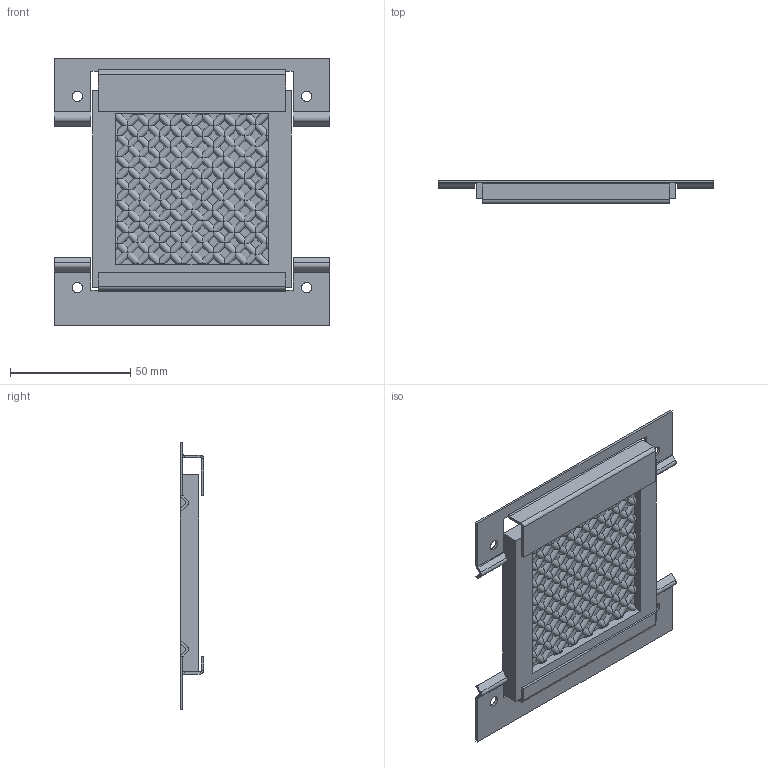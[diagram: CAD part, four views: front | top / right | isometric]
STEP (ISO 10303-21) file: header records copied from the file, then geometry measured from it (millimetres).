
FILE_DESCRIPTION((''),'2;1');
FILE_NAME('SCE-FLT33_ASM','2021-10-20T08:22:50',('mikek'),('SAGINAW CONTROL & ENGINEERING'),'CREO PARAMETRIC BY PTC INC, 2017260','CREO PARAMETRIC BY PTC INC, 2017260','');
FILE_SCHEMA(('AUTOMOTIVE_DESIGN { 1 0 10303 214 1 1 1 1 }'));
Length unit declared in the file: inch
Products named in the file (4): 116960; 116962; 103811; SCE-FLT33_ASM
Assembly tree (3 placements, depth 2):
  SCE-FLT33_ASM
    116960
    116962
    103811
Bounding box: 114.3 x 9.75 x 111.25 mm (x, y, z)
Volume: 36081.9 mm3; surface area: 33334.1 mm2
Topology: 3 solids, 3 shells, 862 faces, 2248 edges, 1394 vertices
Faces by surface type: cylinder 520, plane 342
Entity records: 33078 total; most frequent: CARTESIAN_POINT 12905, ORIENTED_EDGE 4496, DIRECTION 3074, EDGE_CURVE 2248, VERTEX_POINT 1394, VECTOR 1192, LINE 1192, B_SPLINE_CURVE_WITH_KNOTS 984
